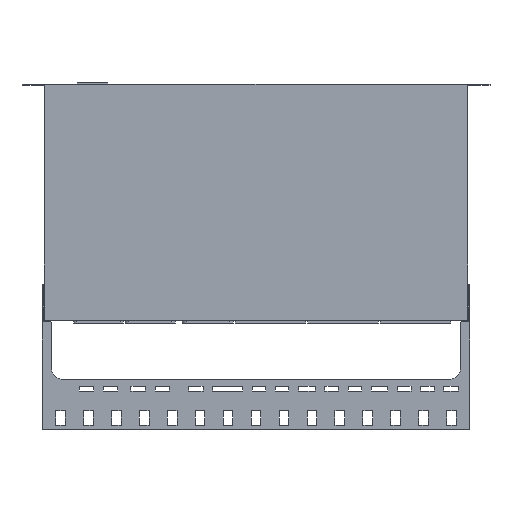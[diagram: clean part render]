
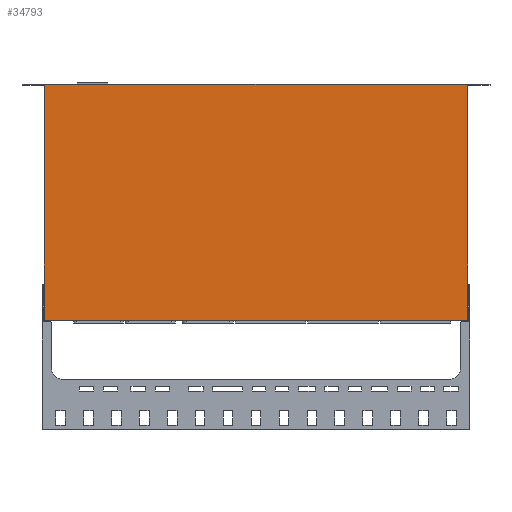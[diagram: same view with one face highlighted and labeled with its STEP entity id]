
A CAD part, top view. The second image highlights one B-rep face of the part: STEP entity #34793.
In plain terms, the highlighted planar face has unit normal (0, 0, 1).
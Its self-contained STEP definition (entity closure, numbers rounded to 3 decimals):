
#34793=ADVANCED_FACE('',(#67242),#67244,.F.);
#67242=FACE_BOUND('',#67243,.T.);
#67243=EDGE_LOOP('',(#97112,#97113,#97114,#97115,#97116,#97117,#97118,#97119));
#67244=PLANE('',#67245);
#67245=AXIS2_PLACEMENT_3D('',#67246,#67247,#67248);
#67246=CARTESIAN_POINT('',(0.,0.,43.9));
#67247=DIRECTION('',(0.,0.,-1.));
#67248=DIRECTION('',(0.,1.,0.));
#97112=ORIENTED_EDGE('',*,*,#112788,.F.);
#97113=ORIENTED_EDGE('',*,*,#108017,.F.);
#97114=ORIENTED_EDGE('',*,*,#112789,.F.);
#97115=ORIENTED_EDGE('',*,*,#112790,.T.);
#97116=ORIENTED_EDGE('',*,*,#112791,.T.);
#97117=ORIENTED_EDGE('',*,*,#112792,.F.);
#97118=ORIENTED_EDGE('',*,*,#112793,.F.);
#97119=ORIENTED_EDGE('',*,*,#112794,.T.);
#108017=EDGE_CURVE('',#124592,#124593,#124594,.T.);
#112788=EDGE_CURVE('',#124593,#132429,#132430,.T.);
#112789=EDGE_CURVE('',#132431,#124592,#132432,.T.);
#112790=EDGE_CURVE('',#132431,#132433,#132434,.T.);
#112791=EDGE_CURVE('',#132433,#132435,#132436,.T.);
#112792=EDGE_CURVE('',#132437,#132435,#132438,.T.);
#112793=EDGE_CURVE('',#132439,#132437,#132440,.T.);
#112794=EDGE_CURVE('',#132439,#132429,#132441,.T.);
#124592=VERTEX_POINT('',#165934);
#124593=VERTEX_POINT('',#165935);
#124594=LINE('',#165936,#165937);
#132429=VERTEX_POINT('',#185294);
#132430=LINE('',#185295,#185296);
#132431=VERTEX_POINT('',#185298);
#132432=LINE('',#185299,#185300);
#132433=VERTEX_POINT('',#185302);
#132434=LINE('',#185303,#185304);
#132435=VERTEX_POINT('',#185306);
#132436=LINE('',#185307,#185308);
#132437=VERTEX_POINT('',#185310);
#132438=LINE('',#185311,#185312);
#132439=VERTEX_POINT('',#185314);
#132440=LINE('',#185315,#185316);
#132441=LINE('',#185318,#185319);
#165934=CARTESIAN_POINT('',(220.,-245.,43.9));
#165935=CARTESIAN_POINT('',(-220.,-245.,43.9));
#165936=CARTESIAN_POINT('',(220.,-245.,43.9));
#165937=VECTOR('',#165938,1.);
#165938=DIRECTION('',(-1.,0.,0.));
#185294=CARTESIAN_POINT('',(-220.,-1.,43.9));
#185295=CARTESIAN_POINT('',(-220.,-245.,43.9));
#185296=VECTOR('',#185297,1.);
#185297=DIRECTION('',(0.,1.,0.));
#185298=CARTESIAN_POINT('',(220.,-1.,43.9));
#185299=CARTESIAN_POINT('',(220.,-1.,43.9));
#185300=VECTOR('',#185301,1.);
#185301=DIRECTION('',(0.,-1.,0.));
#185302=CARTESIAN_POINT('',(241.,-1.,43.9));
#185303=CARTESIAN_POINT('',(220.,-1.,43.9));
#185304=VECTOR('',#185305,1.);
#185305=DIRECTION('',(1.,0.,0.));
#185306=CARTESIAN_POINT('',(241.,0.,43.9));
#185307=CARTESIAN_POINT('',(241.,-1.,43.9));
#185308=VECTOR('',#185309,1.);
#185309=DIRECTION('',(0.,1.,0.));
#185310=CARTESIAN_POINT('',(-241.,0.,43.9));
#185311=CARTESIAN_POINT('',(-241.,0.,43.9));
#185312=VECTOR('',#185313,1.);
#185313=DIRECTION('',(1.,0.,0.));
#185314=CARTESIAN_POINT('',(-241.,-1.,43.9));
#185315=CARTESIAN_POINT('',(-241.,-1.,43.9));
#185316=VECTOR('',#185317,1.);
#185317=DIRECTION('',(0.,1.,0.));
#185318=CARTESIAN_POINT('',(-241.,-1.,43.9));
#185319=VECTOR('',#185320,1.);
#185320=DIRECTION('',(1.,0.,0.));
